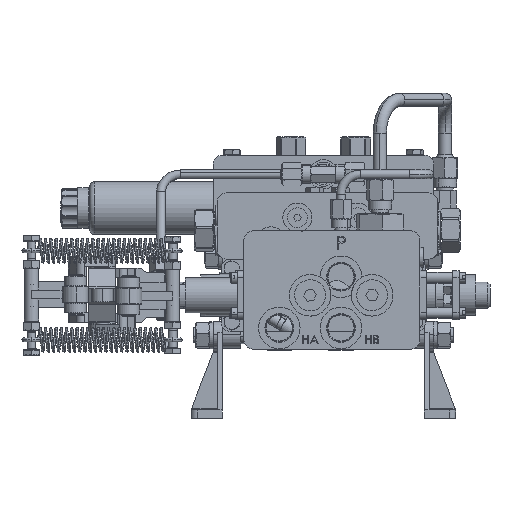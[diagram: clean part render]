
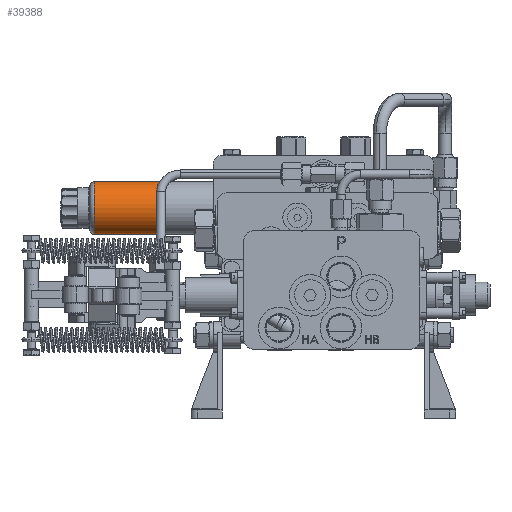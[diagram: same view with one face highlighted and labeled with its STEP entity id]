
A CAD part, front view. The second image highlights one B-rep face of the part: STEP entity #39388.
In plain terms, the highlighted cylindrical face has radius 18.923 mm (diameter 37.846 mm), a partial arc.
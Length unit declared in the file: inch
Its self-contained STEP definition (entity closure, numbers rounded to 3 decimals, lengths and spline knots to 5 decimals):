
#1302 = ORIENTED_EDGE ( 'NONE', *, *, #76738, .F. ) ;
#3009 = CARTESIAN_POINT ( 'NONE',  ( -6.62, 7.5185, 2.47 ) ) ;
#7142 = VECTOR ( 'NONE', #106867, 39.37008 ) ;
#10133 = FACE_OUTER_BOUND ( 'NONE', #16858, .T. ) ;
#11206 = VERTEX_POINT ( 'NONE', #27586 ) ;
#14259 = CARTESIAN_POINT ( 'NONE',  ( -6.62, 7.5185, 3.215 ) ) ;
#16858 = EDGE_LOOP ( 'NONE', ( #103401, #149808, #64666, #1302 ) ) ;
#19605 = LINE ( 'NONE', #168656, #156291 ) ;
#27586 = CARTESIAN_POINT ( 'NONE',  ( -6.495, 7.5185, 3.215 ) ) ;
#28689 = CYLINDRICAL_SURFACE ( 'NONE', #105160, 0.745 ) ;
#39388 = ADVANCED_FACE ( 'NONE', ( #10133 ), #28689, .T. ) ;
#39669 = DIRECTION ( 'NONE',  ( 1., 0., 0. ) ) ;
#64666 = ORIENTED_EDGE ( 'NONE', *, *, #83234, .T. ) ;
#66530 = AXIS2_PLACEMENT_3D ( 'NONE', #118978, #39669, #132299 ) ;
#70548 = EDGE_CURVE ( 'NONE', #11206, #140061, #108543, .T. ) ;
#72210 = CARTESIAN_POINT ( 'NONE',  ( -4.65, 7.5185, 2.47 ) ) ;
#76738 = EDGE_CURVE ( 'NONE', #140061, #108771, #117202, .T. ) ;
#83234 = EDGE_CURVE ( 'NONE', #168608, #108771, #19605, .T. ) ;
#85476 = CARTESIAN_POINT ( 'NONE',  ( -4.65, 7.5185, 1.725 ) ) ;
#85508 = DIRECTION ( 'NONE',  ( 0., 0., -1. ) ) ;
#95071 = DIRECTION ( 'NONE',  ( 1., 0., 0. ) ) ;
#95614 = DIRECTION ( 'NONE',  ( 0., 0., -1. ) ) ;
#102576 = DIRECTION ( 'NONE',  ( 1., 0., 0. ) ) ;
#103401 = ORIENTED_EDGE ( 'NONE', *, *, #70548, .F. ) ;
#105160 = AXIS2_PLACEMENT_3D ( 'NONE', #3009, #95071, #95614 ) ;
#106867 = DIRECTION ( 'NONE',  ( 1., 0., 0. ) ) ;
#108543 = LINE ( 'NONE', #14259, #7142 ) ;
#108771 = VERTEX_POINT ( 'NONE', #85476 ) ;
#111615 = CARTESIAN_POINT ( 'NONE',  ( -4.65, 7.5185, 3.215 ) ) ;
#117202 = CIRCLE ( 'NONE', #135061, 0.745 ) ;
#118978 = CARTESIAN_POINT ( 'NONE',  ( -6.495, 7.5185, 2.47 ) ) ;
#123738 = EDGE_CURVE ( 'NONE', #11206, #168608, #151885, .T. ) ;
#132299 = DIRECTION ( 'NONE',  ( 0., 0., 1. ) ) ;
#135061 = AXIS2_PLACEMENT_3D ( 'NONE', #72210, #164919, #85508 ) ;
#140061 = VERTEX_POINT ( 'NONE', #111615 ) ;
#149808 = ORIENTED_EDGE ( 'NONE', *, *, #123738, .T. ) ;
#151885 = CIRCLE ( 'NONE', #66530, 0.745 ) ;
#154348 = CARTESIAN_POINT ( 'NONE',  ( -6.495, 7.5185, 1.725 ) ) ;
#156291 = VECTOR ( 'NONE', #102576, 39.37008 ) ;
#164919 = DIRECTION ( 'NONE',  ( 1., 0., 0. ) ) ;
#168608 = VERTEX_POINT ( 'NONE', #154348 ) ;
#168656 = CARTESIAN_POINT ( 'NONE',  ( -6.62, 7.5185, 1.725 ) ) ;
